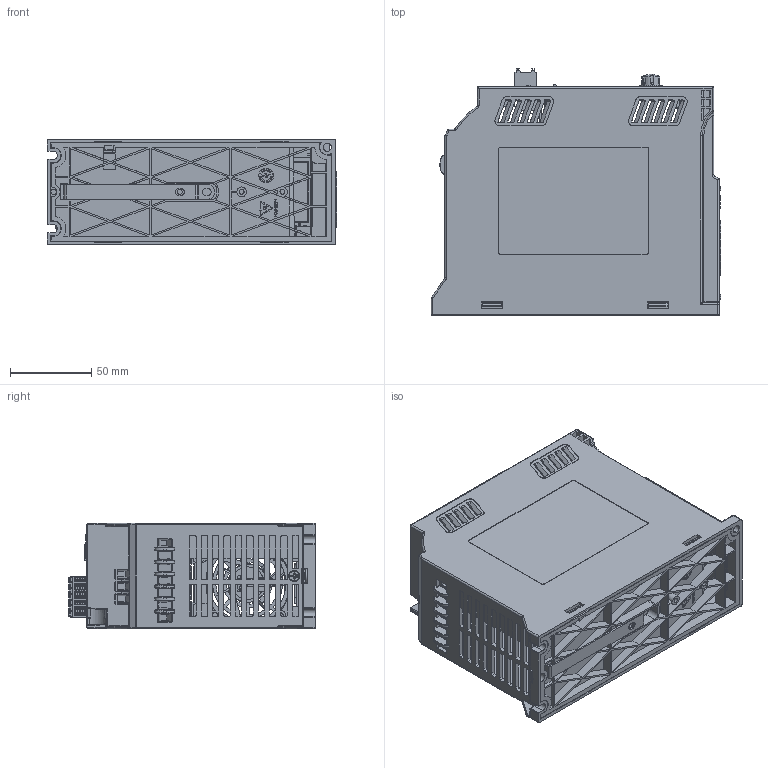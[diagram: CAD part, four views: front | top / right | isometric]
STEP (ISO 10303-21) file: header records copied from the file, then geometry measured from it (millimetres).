
FILE_DESCRIPTION (( 'STEP AP214' ), '1' );
FILE_NAME ('×°ÅäÌå1.STEP', '2024-07-26T02:42:27', ( '' ), ( '' ), 'SwSTEP 2.0', 'SolidWorks 2020', '' );
FILE_SCHEMA (( 'AUTOMOTIVE_DESIGN' ));
Length unit declared in the file: millimetre
Products named in the file (1): 蚾饜极1
Bounding box: 177.99 x 151.05 x 65 mm (x, y, z)
Surface area: 199050 mm2 (no closed solid volume)
Topology: 0 solids, 59 shells, 2883 faces, 11560 edges, 8515 vertices
Faces by surface type: plane 1790, cylinder 804, bspline 156, torus 63, cone 44, sphere 26
Entity records: 179989 total; most frequent: CARTESIAN_POINT 56637, ORIENTED_EDGE 18619, DIRECTION 16874, EDGE_CURVE 11537, VERTEX_POINT 8515, LINE 7650, VECTOR 7650, AXIS2_PLACEMENT_3D 4612
